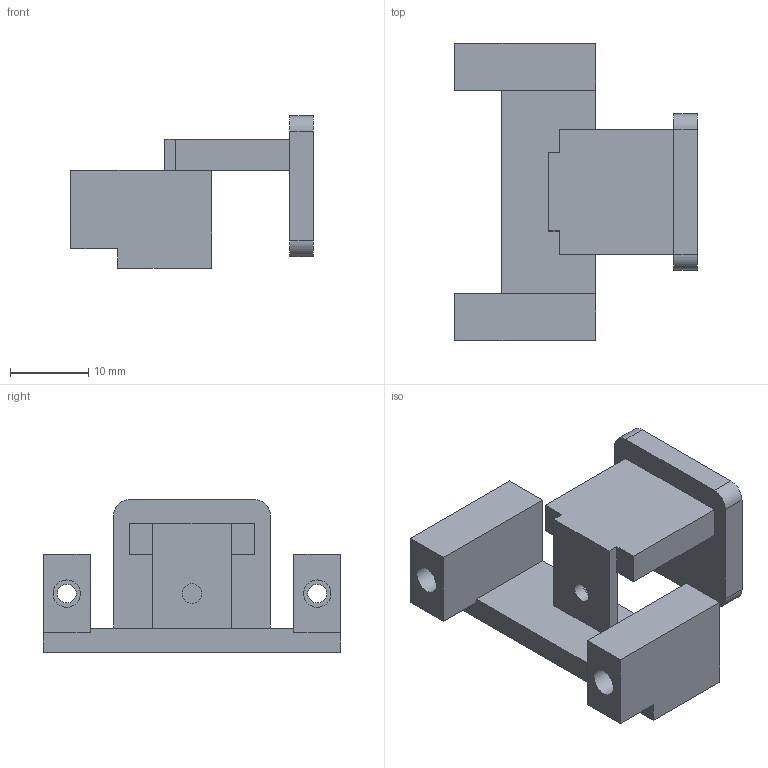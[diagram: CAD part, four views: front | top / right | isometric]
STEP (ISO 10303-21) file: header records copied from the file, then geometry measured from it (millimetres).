
FILE_DESCRIPTION(('Open CASCADE Model'),'2;1');
FILE_NAME('Open CASCADE Shape Model','2026-09-09T10:24:07',('Author'),( 'Open CASCADE'),'Open CASCADE STEP processor 7.8','Open CASCADE 7.8' ,'Unknown');
FILE_SCHEMA(('AUTOMOTIVE_DESIGN { 1 0 10303 214 1 1 1 1 }'));
Length unit declared in the file: millimetre
Products named in the file (1): Open CASCADE STEP translator 7.8 3
Bounding box: 31 x 38 x 19.5 mm (x, y, z)
Volume: 5417 mm3; surface area: 4326.2 mm2
Topology: 1 solids, 1 shells, 45 faces, 111 edges, 74 vertices
Faces by surface type: plane 34, cylinder 11
Full cylindrical faces by diameter (mm): 2.4 x2, 2.5 x1, 3.5 x4
Entity records: 2804 total; most frequent: CARTESIAN_POINT 567, DIRECTION 403, LINE 259, VECTOR 259, ORIENTED_EDGE 222, PCURVE 222, DEFINITIONAL_REPRESENTATION 222, EDGE_CURVE 111
